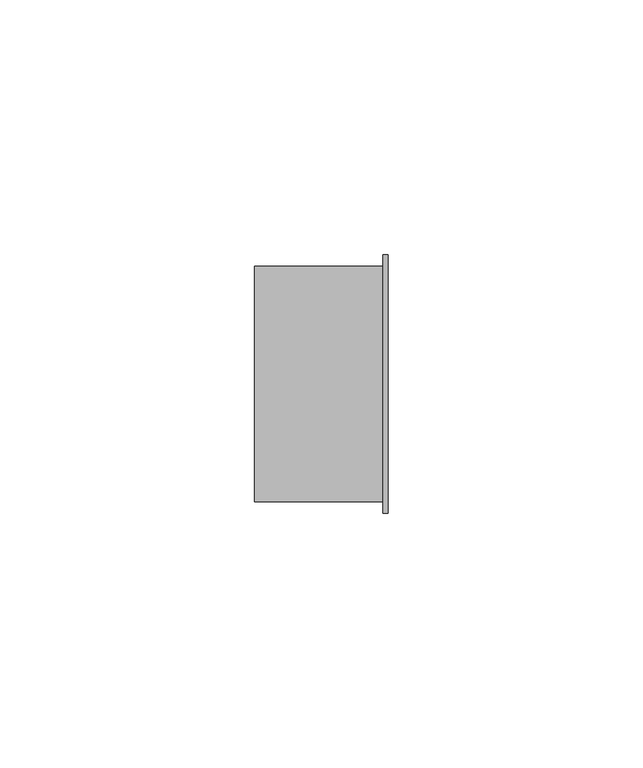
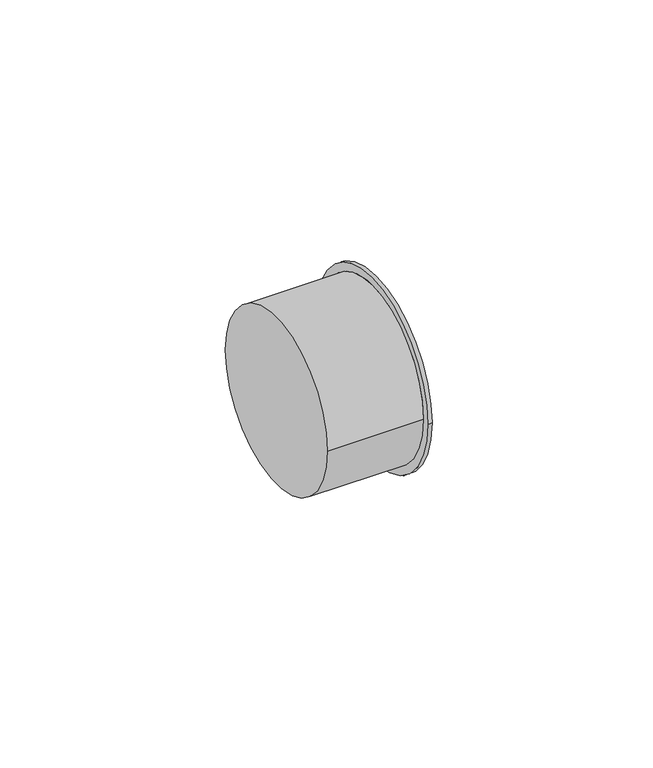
"""IFC4 building model written with IfcOpenShell, lengths in millimetres: pipe fitting geometry, Bucha de redução reta - Soldada - CU : Padrão."""

import ifcopenshell
import ifcopenshell.guid

model = None  # the IFC model being written
_history = None  # IfcOwnerHistory: only IFC2X3 demands one
_inside = {}  # id of a spatial element -> (the spatial element, [elements in it])
_under = {}  # id of a project, library or spatial element -> (it, [spatial elements below it])
_declared = {}  # id of a project -> (the project, [libraries it declares])
_typed = {}  # id of a type object -> (the type object, [elements of that type])
_made_of = {}  # id of a material, layer set ... -> (it, [elements and type objects made of it])


def new_model(schema):
    """Start an empty IFC model of exactly this schema.

    Asked for "IFC4X3", IfcOpenShell would pick the latest addendum, in which some entities
    have other attributes; the version numbers below select the first issue.
    IFC2X3 requires an IfcOwnerHistory on every rooted entity: one is made here for all.
    """
    global model, _history
    if schema == "IFC4X3":
        model = ifcopenshell.file(schema_version=(4, 3, 0, 0))
    else:
        model = ifcopenshell.file(schema=schema)
    _inside.clear()
    _under.clear()
    _declared.clear()
    _typed.clear()
    _made_of.clear()
    _history = None
    if model.schema == "IFC2X3":
        org = make("IfcOrganization", Name="unknown")
        user = make(
            "IfcPersonAndOrganization",
            ThePerson=make("IfcPerson", FamilyName="unknown"),
            TheOrganization=org,
        )
        app = make(
            "IfcApplication",
            ApplicationDeveloper=org,
            Version="unknown",
            ApplicationFullName="unknown",
            ApplicationIdentifier="unknown",
        )
        _history = make(
            "IfcOwnerHistory",
            OwningUser=user,
            OwningApplication=app,
            ChangeAction="ADDED",
            CreationDate=0,
        )
    return model


def make(cls, **values):
    """One entity of the class cls with the attributes given. An attribute that is None is left unset."""
    return model.create_entity(
        cls, **{name: value for name, value in values.items() if value is not None}
    )


def rooted(cls, **values):
    """An entity with a GlobalId (a new one), such as an element, a storey or a relation."""
    return make(cls, GlobalId=ifcopenshell.guid.new(), OwnerHistory=_history, **values)


def si_unit(unit_type, name, prefix=None):
    """IfcSIUnit, for example si_unit("LENGTHUNIT", "METRE", prefix="MILLI")."""
    return make("IfcSIUnit", UnitType=unit_type, Prefix=prefix, Name=name)


def assignment(units):
    """IfcUnitAssignment: the units of a project."""
    return None if units is None else make("IfcUnitAssignment", Units=units)


def point(xyz):
    """IfcCartesianPoint."""
    return None if xyz is None else make("IfcCartesianPoint", Coordinates=xyz)


def direction(xyz):
    """IfcDirection."""
    return None if xyz is None else make("IfcDirection", DirectionRatios=xyz)


def frame(location, z_axis=None, x_axis=None):
    """IfcAxis2Placement3D, a coordinate frame: its origin and axes. An axis left out is left unset."""
    return make(
        "IfcAxis2Placement3D",
        Location=point(location),
        Axis=direction(z_axis),
        RefDirection=direction(x_axis),
    )


def origin():
    """The frame at (0, 0, 0) with its axes left unset."""
    return frame((0.0, 0.0, 0.0))


def place(relative_to, where):
    """IfcLocalPlacement: puts the frame where relative to a parent placement (None: the world)."""
    return make(
        "IfcLocalPlacement", PlacementRelTo=relative_to, RelativePlacement=where
    )


def context(
    kind, dimensions, precision=None, world=None, true_north=None, identifier=None
):
    """IfcGeometricRepresentationContext, for example the 3D "Model" context."""
    return make(
        "IfcGeometricRepresentationContext",
        ContextIdentifier=identifier,
        ContextType=kind,
        CoordinateSpaceDimension=dimensions,
        Precision=precision,
        WorldCoordinateSystem=world,
        TrueNorth=true_north,
    )


def project(units=None, contexts=None):
    """IfcProject with its units and contexts."""
    return rooted(
        "IfcProject",
        Name="project",
        RepresentationContexts=contexts,
        UnitsInContext=assignment(units),
    )


def spatial(cls, under=None, at=None, **own):
    """A site, building, storey or space (cls), placed at a placement, below another one or the project."""
    s = rooted(cls, ObjectPlacement=at, **own)
    if under is not None:
        _under.setdefault(under.id(), (under, []))[1].append(s)
    return s


def circle_curve(where, radius):
    """IfcCircle in the frame where."""
    return make("IfcCircle", Position=where, Radius=radius)


def shape(context_of_items, identifier, shape_type, items):
    """IfcShapeRepresentation: the items that make up one representation, for example the "Body"."""
    return make(
        "IfcShapeRepresentation",
        ContextOfItems=context_of_items,
        RepresentationIdentifier=identifier,
        RepresentationType=shape_type,
        Items=items,
    )


def source(mapping_origin, context_of_items, identifier, shape_type, items):
    """IfcRepresentationMap: a shape defined once, which mapped items show again and again."""
    return make(
        "IfcRepresentationMap",
        MappingOrigin=mapping_origin,
        MappedRepresentation=shape(context_of_items, identifier, shape_type, items),
    )


def transform(
    local_origin,
    x_axis=None,
    y_axis=None,
    z_axis=None,
    scale=None,
    scale2=None,
    scale3=None,
    uniform=True,
):
    """IfcCartesianTransformationOperator3D, or its non-uniform kind. x_axis, y_axis, z_axis: its Axis1, 2, 3."""
    if uniform:
        return make(
            "IfcCartesianTransformationOperator3D",
            Axis1=direction(x_axis),
            Axis2=direction(y_axis),
            LocalOrigin=point(local_origin),
            Scale=scale,
            Axis3=direction(z_axis),
        )
    return make(
        "IfcCartesianTransformationOperator3DnonUniform",
        Axis1=direction(x_axis),
        Axis2=direction(y_axis),
        LocalOrigin=point(local_origin),
        Scale=scale,
        Axis3=direction(z_axis),
        Scale2=scale2,
        Scale3=scale3,
    )


def mapped(mapping_source, mapping_target):
    """IfcMappedItem: shows the shape of a source again, moved by a transform."""
    return make(
        "IfcMappedItem", MappingSource=mapping_source, MappingTarget=mapping_target
    )


def made_of(thing, what):
    """Note that an element or type object is made of a material, layer set ...; save() writes the relation."""
    if what is not None:
        _made_of.setdefault(what.id(), (what, []))[1].append(thing)
    return thing


def element(
    cls,
    number,
    at=None,
    inside=None,
    cuts=None,
    type_object=None,
    material=None,
    context=None,
    identifier="Body",
    shape_type=None,
    held_by="IfcProductDefinitionShape",
    body=None,
    shapes=None,
    **own,
):
    """One element of the class cls, such as IfcWall. Its Tag is "e" and its number.

    at: its placement. inside: the storey or other place that contains it. cuts: it is an
    opening in that element (IfcRelVoidsElement). A single representation is given by context,
    identifier, shape_type and body (its items); several are given by shapes. held_by: the class
    of the entity that holds the representations. save() writes the other relations.
    """
    e = rooted(cls, Tag="e%d" % number, ObjectPlacement=at, **own)
    if body is not None:
        shapes = [shape(context, identifier, shape_type, body)]
    if shapes is not None:
        e.Representation = make(held_by, Representations=shapes)
    if inside is not None:
        _inside.setdefault(inside.id(), (inside, []))[1].append(e)
    if cuts is not None:
        rooted(
            "IfcRelVoidsElement", RelatingBuildingElement=cuts, RelatedOpeningElement=e
        )
    if type_object is not None:
        _typed.setdefault(type_object.id(), (type_object, []))[1].append(e)
    return made_of(e, material)


def aggregate(whole, parts):
    """IfcRelAggregates: a whole, such as a stair, and the parts it consists of."""
    return rooted("IfcRelAggregates", RelatingObject=whole, RelatedObjects=parts)


def save(model, path):
    """Write the relations noted so far, then the file.

    IfcRelAggregates (storeys below a building ...), IfcRelContainedInSpatialStructure (elements
    in a storey), IfcRelDefinesByType, IfcRelAssociatesMaterial and IfcRelDeclares: one each for
    every whole, place, type object, material and project.
    """
    for whole, parts in _under.values():
        aggregate(whole, parts)
    for where, things in _inside.values():
        rooted(
            "IfcRelContainedInSpatialStructure",
            RelatedElements=things,
            RelatingStructure=where,
        )
    for kind, things in _typed.values():
        rooted("IfcRelDefinesByType", RelatedObjects=things, RelatingType=kind)
    for what, things in _made_of.values():
        rooted("IfcRelAssociatesMaterial", RelatedObjects=things, RelatingMaterial=what)
    for by, libraries in _declared.values():
        rooted("IfcRelDeclares", RelatingContext=by, RelatedDefinitions=libraries)
    model.write(path)


def plane_surface(at):
    """IfcPlane: the flat surface through the origin of the frame at, square to its z axis."""
    return make("IfcPlane", Position=at)


def cylinder_surface(at, radius):
    """IfcCylindricalSurface: all points at the distance radius from the z axis of the frame at."""
    return make("IfcCylindricalSurface", Position=at, Radius=radius)


def advanced_brep(points, edges, surfaces, faces):
    """IfcAdvancedBrep: a solid bounded by faces that lie on surfaces and meet in shared edges.

    An edge is (start, end): straight between two places in points (the first is 0);
    or (start, end, curve); or (start, end, curve, False) where it runs against its curve.
    A face is (place in surfaces, loops), or (place, loops, False) where it looks against
    its surface's normal. A loop lists edges by number (the first is 1), with a minus sign
    where the edge is run from its end to its start. The first loop is the outer one.
    """
    corners = [point(p) for p in points]
    vertices = [make("IfcVertexPoint", VertexGeometry=c) for c in corners]
    made = []
    for start, end, *more in edges:
        made.append(
            make(
                "IfcEdgeCurve",
                EdgeStart=vertices[start],
                EdgeEnd=vertices[end],
                EdgeGeometry=more[0] if more else make("IfcPolyline", Points=[corners[start], corners[end]]),
                SameSense=more[1] if len(more) > 1 else True,
            )
        )
    hull = []
    for where, loops, *sense in faces:
        bounds = []
        for j, loop in enumerate(loops):
            ring = [make("IfcOrientedEdge", EdgeElement=made[abs(k) - 1], Orientation=k > 0) for k in loop]
            bounds.append(
                make(
                    "IfcFaceOuterBound" if j == 0 else "IfcFaceBound",
                    Bound=make("IfcEdgeLoop", EdgeList=ring),
                    Orientation=True,
                )
            )
        hull.append(make("IfcAdvancedFace", Bounds=bounds, FaceSurface=surfaces[where], SameSense=sense[0] if sense else True))
    return make("IfcAdvancedBrep", Outer=make("IfcClosedShell", CfsFaces=hull))


def pipe_fitting_c427e41c(model_context):
    return source(origin(), model_context, "Body", "AdvancedBrep", [
        advanced_brep(
        [(0.0, -23.095, 0.0), (0.0, 23.095, 0.0), (25.115, -23.095, 0.0), (25.115, 23.095, 0.0), (26.115, -25.3, 0.0), (26.115, 25.3, 0.0), (25.115, 25.3, 0.0), (25.115, -25.3, 0.0)],
        [
            (0, 1, circle_curve(frame((0.0, 0.0, 0.0), z_axis=(-1.0, 0.0, 0.0), x_axis=(0.0, 1.0, 0.0)), 23.095)),
            (1, 0, circle_curve(frame((0.0, 0.0, 0.0), z_axis=(-1.0, 0.0, 0.0), x_axis=(0.0, 1.0, 0.0)), 23.095)),
            (0, 2),
            (2, 3, circle_curve(frame((25.115, 0.0, 0.0), z_axis=(-1.0, 0.0, 0.0), x_axis=(0.0, 1.0, 0.0)), 23.095)),
            (3, 1),
            (3, 2, circle_curve(frame((25.115, 0.0, 0.0), z_axis=(-1.0, 0.0, 0.0), x_axis=(0.0, 1.0, 0.0)), 23.095)),
            (4, 5, circle_curve(frame((26.115, 0.0, 0.0), z_axis=(1.0, 0.0, 0.0), x_axis=(0.0, 1.0, 0.0)), 25.3)),
            (5, 4, circle_curve(frame((26.115, 0.0, 0.0), z_axis=(1.0, 0.0, 0.0), x_axis=(0.0, 1.0, 0.0)), 25.3)),
            (6, 7, circle_curve(frame((25.115, 0.0, 0.0), z_axis=(1.0, 0.0, 0.0), x_axis=(0.0, 1.0, 0.0)), 25.3)),
            (7, 4),
            (5, 6),
            (7, 6, circle_curve(frame((25.115, 0.0, 0.0), z_axis=(1.0, 0.0, 0.0), x_axis=(0.0, 1.0, 0.0)), 25.3)),
        ],
        [
            plane_surface(frame((0.0, 0.0, 0.0), z_axis=(-1.0, 0.0, 0.0), x_axis=(0.0, 0.0, 1.0))),
            cylinder_surface(frame((0.0, 0.0, 0.0), z_axis=(-1.0, 0.0, 0.0), x_axis=(0.0, 1.0, 0.0)), 23.095),
            plane_surface(frame((26.115, 0.0, 0.0), z_axis=(1.0, 0.0, 0.0), x_axis=(0.0, 0.0, 1.0))),
            cylinder_surface(frame((25.115, 0.0, 0.0), z_axis=(-1.0, 0.0, 0.0), x_axis=(0.0, 1.0, 0.0)), 25.3),
            plane_surface(frame((25.115, 0.0, 0.0), z_axis=(-1.0, 0.0, 0.0), x_axis=(0.0, 0.0, 1.0))),
        ],
        [
            (0, [[1, 2]]),
            (1, [[-1, 3, 4, 5]]),
            (1, [[-2, -5, 6, -3]]),
            (2, [[7, 8]]),
            (3, [[9, 10, -8, 11]]),
            (3, [[12, -11, -7, -10]]),
            (4, [[-9, -12], [-4, -6]]),
        ],
    ),
    ])


if __name__ == "__main__":
    model = new_model("IFC4")
    model_context = context("Model", 3, world=origin())
    ifc_project = project(units=[si_unit("LENGTHUNIT", "METRE", prefix="MILLI")], contexts=[model_context])
    site = spatial("IfcSite", under=ifc_project)
    building = spatial("IfcBuilding", under=site)
    placement = place(None, origin())
    pipe_fitting_shape = pipe_fitting_c427e41c(model_context)
    element("IfcPipeFitting", 1, ObjectType="Bucha de redução reta - Soldada - CU : Padrão", at=placement, inside=building, context=model_context, shape_type="MappedRepresentation", body=[
        mapped(pipe_fitting_shape, transform((0.0, 0.0, 0.0), x_axis=(1.0, 0.0, 0.0), y_axis=(0.0, 1.0, 0.0), z_axis=(0.0, 0.0, 1.0))),
    ])
    save(model, "model.ifc")
